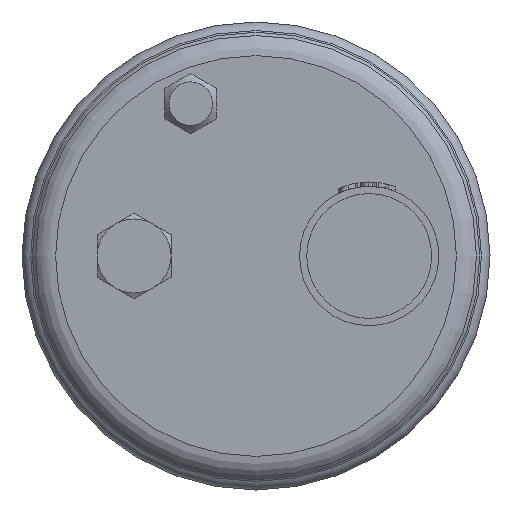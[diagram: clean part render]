
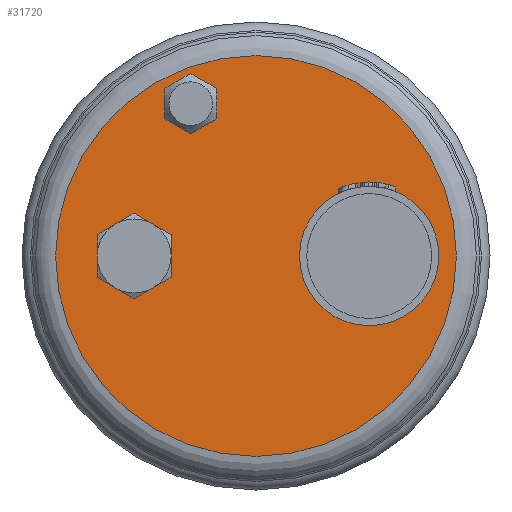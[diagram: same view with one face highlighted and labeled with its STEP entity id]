
A CAD part, front view. The second image highlights one B-rep face of the part: STEP entity #31720.
In plain terms, the highlighted planar face has unit normal (0, -1, 0).
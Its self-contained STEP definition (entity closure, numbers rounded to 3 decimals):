
#1461=PLANE('',#33986);
#1486=CIRCLE('',#31793,16.);
#2186=CIRCLE('',#33987,46.035);
#2187=CIRCLE('',#33988,8.);
#2188=CIRCLE('',#33989,6.);
#7327=FACE_BOUND('',#11053,.T.);
#7328=FACE_BOUND('',#11054,.T.);
#7329=FACE_BOUND('',#11055,.T.);
#9100=FACE_OUTER_BOUND('',#11052,.T.);
#11052=EDGE_LOOP('',(#29680));
#11053=EDGE_LOOP('',(#29681));
#11054=EDGE_LOOP('',(#29682));
#11055=EDGE_LOOP('',(#29683));
#12539=VERTEX_POINT('',#41488);
#15590=VERTEX_POINT('',#68930);
#15591=VERTEX_POINT('',#68932);
#15592=VERTEX_POINT('',#68934);
#15737=EDGE_CURVE('',#12539,#12539,#1486,.T.);
#20312=EDGE_CURVE('',#15590,#15590,#2186,.T.);
#20313=EDGE_CURVE('',#15591,#15591,#2187,.T.);
#20314=EDGE_CURVE('',#15592,#15592,#2188,.T.);
#29680=ORIENTED_EDGE('',*,*,#20312,.T.);
#29681=ORIENTED_EDGE('',*,*,#15737,.F.);
#29682=ORIENTED_EDGE('',*,*,#20313,.F.);
#29683=ORIENTED_EDGE('',*,*,#20314,.F.);
#31720=ADVANCED_FACE('',(#9100,#7327,#7328,#7329),#1461,.T.);
#31793=AXIS2_PLACEMENT_3D('',#41489,#34170,#34171);
#33986=AXIS2_PLACEMENT_3D('',#68929,#40634,#40635);
#33987=AXIS2_PLACEMENT_3D('',#68931,#40636,#40637);
#33988=AXIS2_PLACEMENT_3D('',#68933,#40638,#40639);
#33989=AXIS2_PLACEMENT_3D('',#68935,#40640,#40641);
#34170=DIRECTION('center_axis',(0.,-1.,0.));
#34171=DIRECTION('ref_axis',(-0.649,0.,-0.76));
#40634=DIRECTION('center_axis',(0.,-1.,0.));
#40635=DIRECTION('ref_axis',(0.,0.,-1.));
#40636=DIRECTION('center_axis',(0.,-1.,0.));
#40637=DIRECTION('ref_axis',(-1.,0.,0.));
#40638=DIRECTION('center_axis',(0.,-1.,0.));
#40639=DIRECTION('ref_axis',(0.,0.,
1.));
#40640=DIRECTION('center_axis',(0.,-1.,0.));
#40641=DIRECTION('ref_axis',(-0.132,0.,-0.991));
#41488=CARTESIAN_POINT('',(65.612,-6.005,-12.168));
#41489=CARTESIAN_POINT('Origin',(76.002,-6.005,0.));
#68929=CARTESIAN_POINT('Origin',(26.984,-6.005,0.));
#68930=CARTESIAN_POINT('',(3.967,-6.005,0.));
#68931=CARTESIAN_POINT('Origin',(50.002,-6.005,0.));
#68932=CARTESIAN_POINT('',(22.002,-6.005,8.));
#68933=CARTESIAN_POINT('Origin',(22.002,-6.005,0.));
#68934=CARTESIAN_POINT('',(34.211,-6.005,29.052));
#68935=CARTESIAN_POINT('Origin',(35.002,-6.005,35.));
